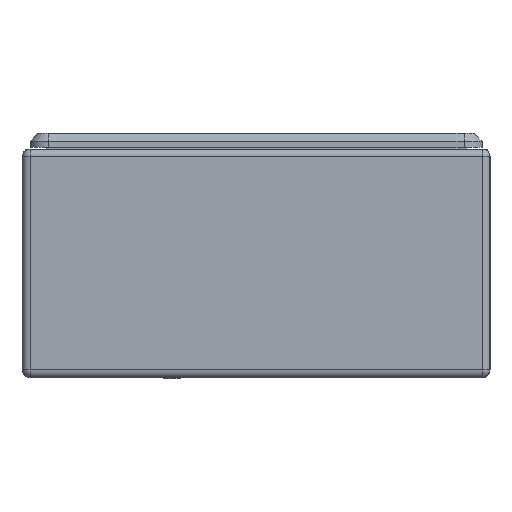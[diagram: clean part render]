
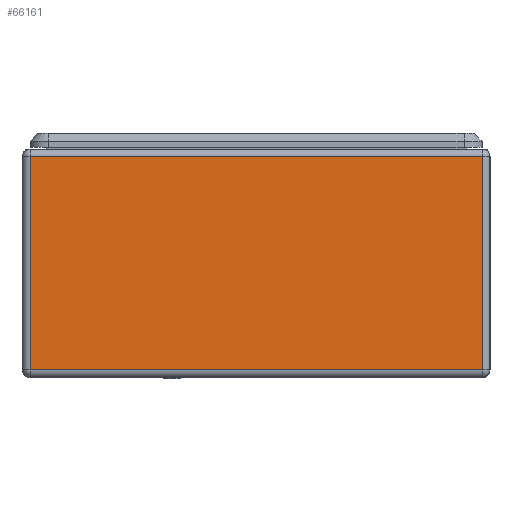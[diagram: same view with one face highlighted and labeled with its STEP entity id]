
A CAD part, left-side view. The second image highlights one B-rep face of the part: STEP entity #66161.
In plain terms, the highlighted planar face has unit normal (-1, 0, 0).
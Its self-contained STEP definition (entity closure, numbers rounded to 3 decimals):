
#3987=PLANE('',#71241);
#6859=FACE_OUTER_BOUND('',#10770,.T.);
#10770=EDGE_LOOP('',(#53258,#53259,#53260,#53261));
#15757=LINE('',#126413,#22014);
#15774=LINE('',#126466,#22031);
#15775=LINE('',#126467,#22032);
#15776=LINE('',#126468,#22033);
#22014=VECTOR('',#82866,1000.);
#22031=VECTOR('',#82935,1000.);
#22032=VECTOR('',#82936,1000.);
#22033=VECTOR('',#82937,1000.);
#30580=VERTEX_POINT('',#126409);
#30581=VERTEX_POINT('',#126411);
#30590=VERTEX_POINT('',#126464);
#30591=VERTEX_POINT('',#126465);
#38678=EDGE_CURVE('',#30581,#30580,#15757,.T.);
#38704=EDGE_CURVE('',#30590,#30591,#15774,.T.);
#38705=EDGE_CURVE('',#30580,#30590,#15775,.T.);
#38706=EDGE_CURVE('',#30591,#30581,#15776,.T.);
#53258=ORIENTED_EDGE('',*,*,#38704,.F.);
#53259=ORIENTED_EDGE('',*,*,#38705,.F.);
#53260=ORIENTED_EDGE('',*,*,#38678,.F.);
#53261=ORIENTED_EDGE('',*,*,#38706,.F.);
#66161=ADVANCED_FACE('',(#6859),#3987,.F.);
#71241=AXIS2_PLACEMENT_3D('',#126463,#82933,#82934);
#82866=DIRECTION('',(0.,1.,0.));
#82933=DIRECTION('center_axis',(1.,0.,0.));
#82934=DIRECTION('ref_axis',(0.,1.,0.));
#82935=DIRECTION('',(0.,-1.,0.));
#82936=DIRECTION('',(0.,0.,1.));
#82937=DIRECTION('',(0.,0.,-1.));
#126409=CARTESIAN_POINT('',(-247.5,87.,-41.));
#126411=CARTESIAN_POINT('',(-247.5,-87.,-41.));
#126413=CARTESIAN_POINT('',(-247.5,90.,-41.));
#126463=CARTESIAN_POINT('Origin',(-247.5,90.,44.));
#126464=CARTESIAN_POINT('',(-247.5,87.,41.));
#126465=CARTESIAN_POINT('',(-247.5,-87.,41.));
#126466=CARTESIAN_POINT('',(-247.5,90.,41.));
#126467=CARTESIAN_POINT('',(-247.5,87.,44.));
#126468=CARTESIAN_POINT('',(-247.5,-87.,44.));
